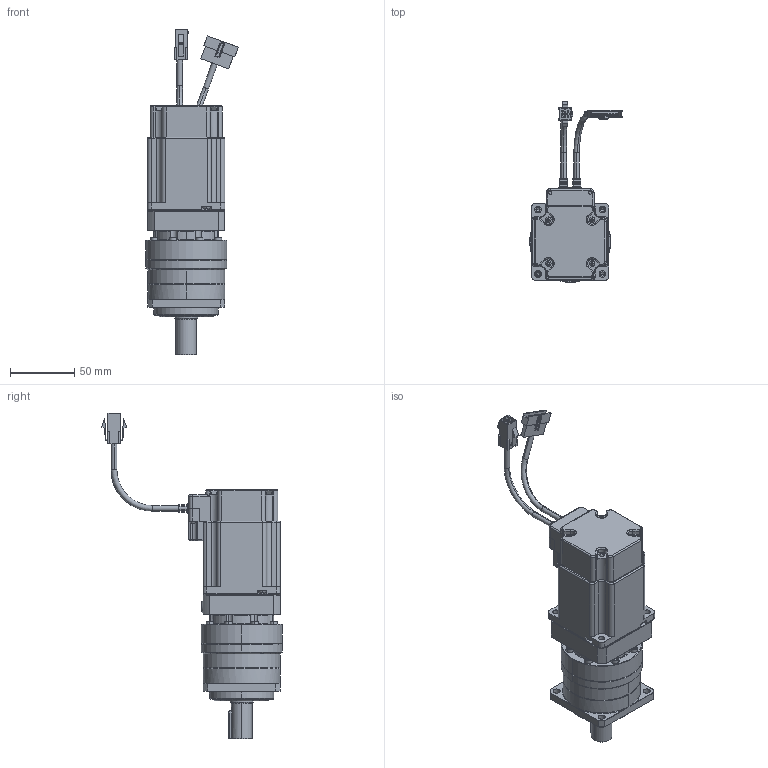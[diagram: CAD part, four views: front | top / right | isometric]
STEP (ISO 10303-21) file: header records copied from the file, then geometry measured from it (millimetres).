
FILE_DESCRIPTION (( 'STEP AP203' ), '1' );
FILE_NAME ('130416 Ezi-SERVO PG-ST-60M-PN3~10.STEP', '2013-04-16T08:32:11', ( '' ), ( '' ), 'SwSTEP 2.0', 'SolidWorks 2012', '' );
FILE_SCHEMA (( 'CONFIG_CONTROL_DESIGN' ));
Length unit declared in the file: metre
Products named in the file (15): 130416 Ezi-SERVO PG-ST-60M-PN3~10; ST56 1ST; MainEzM-60M-assembly-1; MainM3-screw10-1-1; MainM3-screw7-1-1; MainM3-screw9-1-1; MainM3-screw8-1-1; MainM3-screw12-1-1; MainM3-screw11-1-1; MainEzM-60M-1; MainEZSV_60_Encoder_Cover-1-1; MainEZSV_60_Cable_Cover-1-1; Main60_Encoder_Plate-1-1; MainEncoder_Cable_60-1-1; MainPower_Cable_60-1-1
Assembly tree (14 placements, depth 3):
  130416 Ezi-SERVO PG-ST-60M-PN3~10
    MainEzM-60M-assembly-1
      MainPower_Cable_60-1-1
      MainEncoder_Cable_60-1-1
      Main60_Encoder_Plate-1-1
      MainEZSV_60_Cable_Cover-1-1
      MainEZSV_60_Encoder_Cover-1-1
      MainEzM-60M-1
      MainM3-screw11-1-1
      MainM3-screw12-1-1
      MainM3-screw8-1-1
      MainM3-screw9-1-1
      MainM3-screw7-1-1
      MainM3-screw10-1-1
    ST56 1ST
Bounding box: 71.99 x 140.14 x 253 mm (x, y, z)
Volume: 444813 mm3; surface area: 91453.7 mm2
Topology: 13 solids, 13 shells, 1454 faces, 3797 edges, 2405 vertices
Faces by surface type: plane 711, cylinder 483, cone 118, bspline 62, torus 56, sphere 24
Entity records: 49941 total; most frequent: CARTESIAN_POINT 13331, ORIENTED_EDGE 7394, DIRECTION 7212, EDGE_CURVE 3697, AXIS2_PLACEMENT_3D 2649, VERTEX_POINT 2385, VECTOR 1914, LINE 1914
